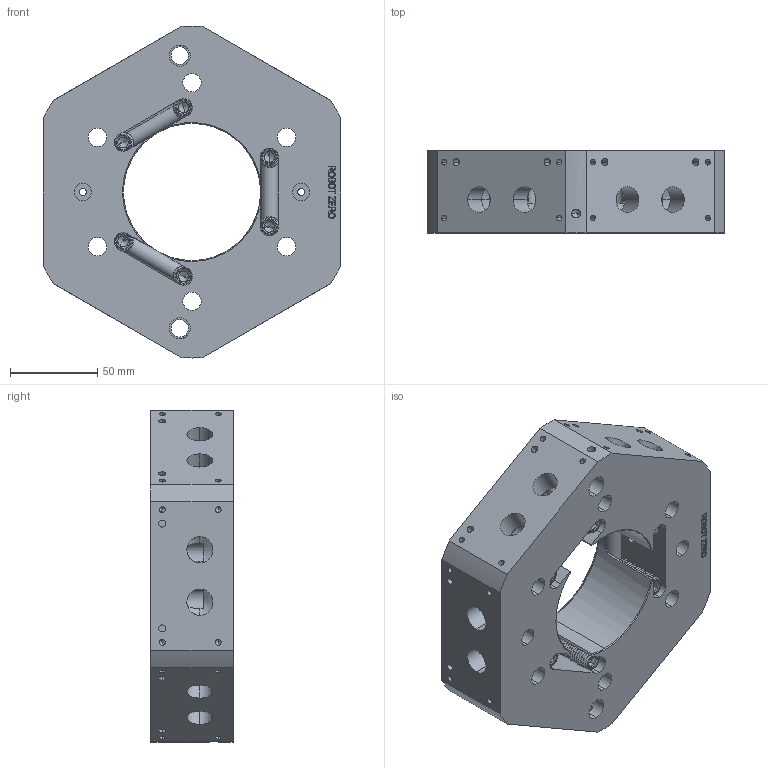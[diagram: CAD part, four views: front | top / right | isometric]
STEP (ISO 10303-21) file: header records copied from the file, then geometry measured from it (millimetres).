
FILE_DESCRIPTION (( 'STEP AP214' ), '1' );
FILE_NAME ('1800871A REV00.STEP', '2019-07-15T18:41:06', ( '' ), ( '' ), 'SwSTEP 2.0', 'SolidWorks 2019', '' );
FILE_SCHEMA (( 'AUTOMOTIVE_DESIGN' ));
Length unit declared in the file: millimetre
Products named in the file (7): 1601-D30A_ET125LP - HARDWARE KIT W; 49431; 1600-D10N; 1800584P_92015A176; 1600-P57N; 1800871A REV00; 49382
Assembly tree (14 placements, depth 3):
  1800871A REV00
    1601-D30A_ET125LP - HARDWARE KIT W
      1600-D10N
      49382  x3
      1800584P_92015A176  x6
      49431  x2
    1600-P57N
Bounding box: 170 x 47 x 190 mm (x, y, z)
Volume: 792556.8 mm3; surface area: 143500 mm2
Topology: 13 solids, 13 shells, 1140 faces, 2928 edges, 1832 vertices
Faces by surface type: cylinder 458, plane 291, cone 194, bspline 121, torus 56, sphere 20
Entity records: 34853 total; most frequent: CARTESIAN_POINT 15032, ORIENTED_EDGE 3954, DIRECTION 3689, EDGE_CURVE 1977, AXIS2_PLACEMENT_3D 1391, VERTEX_POINT 1267, EDGE_LOOP 954, VECTOR 907
